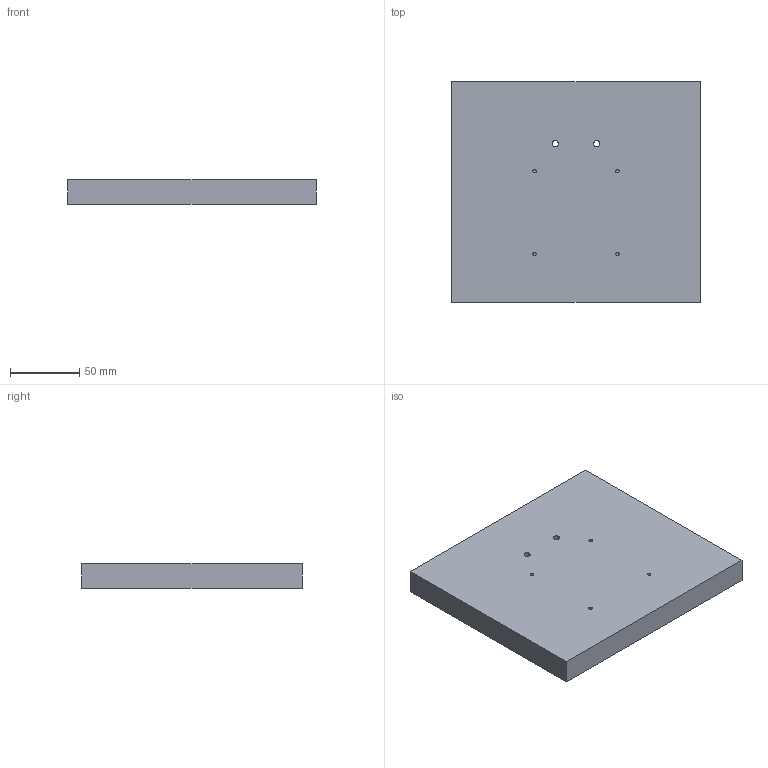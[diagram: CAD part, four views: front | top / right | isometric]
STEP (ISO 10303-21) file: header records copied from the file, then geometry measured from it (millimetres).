
FILE_DESCRIPTION(('Open CASCADE Model'),'2;1');
FILE_NAME('Open CASCADE Shape Model','2026-11-10T18:04:08',('Author'),( 'Open CASCADE'),'Open CASCADE STEP processor 7.9','Open CASCADE 7.9' ,'Unknown');
FILE_SCHEMA(('AUTOMOTIVE_DESIGN { 1 0 10303 214 1 1 1 1 }'));
Length unit declared in the file: millimetre
Products named in the file (1): Open CASCADE STEP translator 7.9 1
Bounding box: 180 x 160 x 18 mm (x, y, z)
Volume: 517447.3 mm3; surface area: 70606.2 mm2
Topology: 1 solids, 1 shells, 18 faces, 34 edges, 22 vertices
Faces by surface type: plane 10, cylinder 6, cone 2
Full cylindrical faces by diameter (mm): 2.5 x4, 4.5 x2
Entity records: 916 total; most frequent: DIRECTION 154, CARTESIAN_POINT 143, LINE 76, VECTOR 76, ORIENTED_EDGE 68, PCURVE 68, DEFINITIONAL_REPRESENTATION 68, EDGE_CURVE 34
